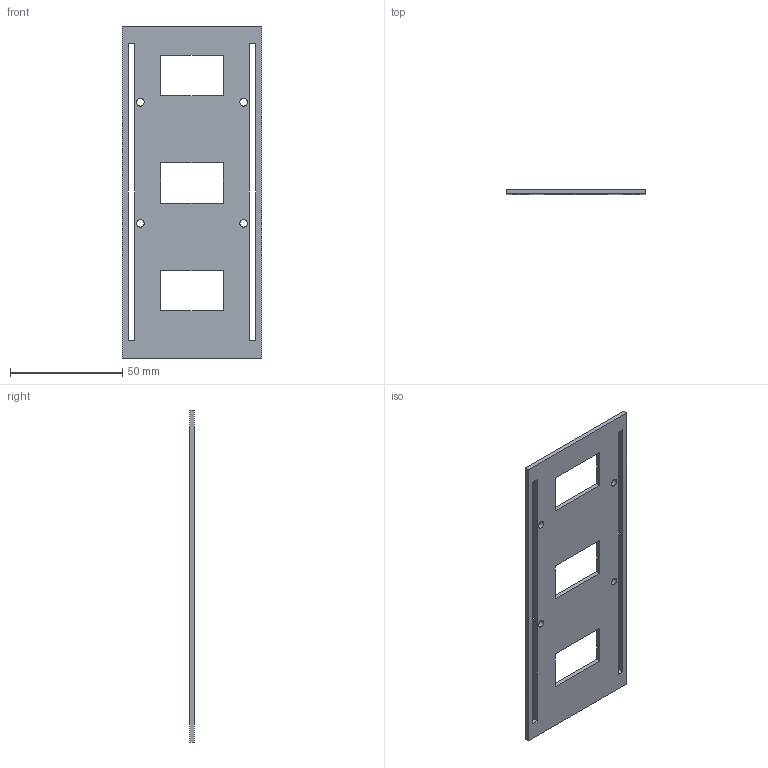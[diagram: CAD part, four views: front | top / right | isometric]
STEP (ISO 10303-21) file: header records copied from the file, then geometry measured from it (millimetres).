
FILE_DESCRIPTION(('Open CASCADE Model'),'2;1');
FILE_NAME('Open CASCADE Shape Model','2026-09-11T00:16:40',('Author'),( 'Open CASCADE'),'Open CASCADE STEP processor 7.9','Open CASCADE 7.9' ,'Unknown');
FILE_SCHEMA(('AUTOMOTIVE_DESIGN { 1 0 10303 214 1 1 1 1 }'));
Length unit declared in the file: millimetre
Products named in the file (1): Open CASCADE STEP translator 7.9 3
Bounding box: 62 x 2 x 148 mm (x, y, z)
Volume: 13671.4 mm3; surface area: 16228.8 mm2
Topology: 1 solids, 1 shells, 30 faces, 84 edges, 56 vertices
Faces by surface type: plane 26, cylinder 4
Full cylindrical faces by diameter (mm): 3.4 x4
Entity records: 2014 total; most frequent: CARTESIAN_POINT 419, DIRECTION 242, ORIENTED_EDGE 168, PCURVE 168, DEFINITIONAL_REPRESENTATION 168, LINE 156, VECTOR 156, EDGE_CURVE 84
